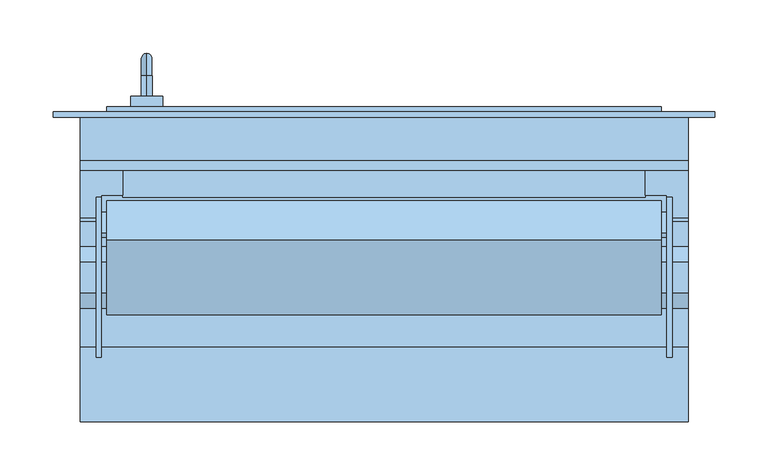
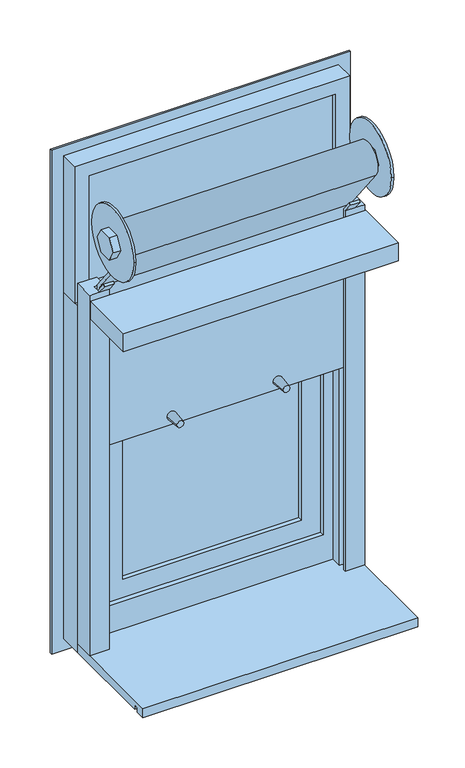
"""IFC4 building model written with IfcOpenShell, lengths in millimetres: window geometry, Ventana monoblock practicable, 1 hoja sin cajon para poner emparchado : CA-03 BAÑO."""

import ifcopenshell
import ifcopenshell.guid

model = None  # the IFC model being written
_history = None  # IfcOwnerHistory: only IFC2X3 demands one
_inside = {}  # id of a spatial element -> (the spatial element, [elements in it])
_under = {}  # id of a project, library or spatial element -> (it, [spatial elements below it])
_declared = {}  # id of a project -> (the project, [libraries it declares])
_typed = {}  # id of a type object -> (the type object, [elements of that type])
_made_of = {}  # id of a material, layer set ... -> (it, [elements and type objects made of it])


def new_model(schema):
    """Start an empty IFC model of exactly this schema.

    Asked for "IFC4X3", IfcOpenShell would pick the latest addendum, in which some entities
    have other attributes; the version numbers below select the first issue.
    IFC2X3 requires an IfcOwnerHistory on every rooted entity: one is made here for all.
    """
    global model, _history
    if schema == "IFC4X3":
        model = ifcopenshell.file(schema_version=(4, 3, 0, 0))
    else:
        model = ifcopenshell.file(schema=schema)
    _inside.clear()
    _under.clear()
    _declared.clear()
    _typed.clear()
    _made_of.clear()
    _history = None
    if model.schema == "IFC2X3":
        org = make("IfcOrganization", Name="unknown")
        user = make(
            "IfcPersonAndOrganization",
            ThePerson=make("IfcPerson", FamilyName="unknown"),
            TheOrganization=org,
        )
        app = make(
            "IfcApplication",
            ApplicationDeveloper=org,
            Version="unknown",
            ApplicationFullName="unknown",
            ApplicationIdentifier="unknown",
        )
        _history = make(
            "IfcOwnerHistory",
            OwningUser=user,
            OwningApplication=app,
            ChangeAction="ADDED",
            CreationDate=0,
        )
    return model


def make(cls, **values):
    """One entity of the class cls with the attributes given. An attribute that is None is left unset."""
    return model.create_entity(
        cls, **{name: value for name, value in values.items() if value is not None}
    )


def rooted(cls, **values):
    """An entity with a GlobalId (a new one), such as an element, a storey or a relation."""
    return make(cls, GlobalId=ifcopenshell.guid.new(), OwnerHistory=_history, **values)


def si_unit(unit_type, name, prefix=None):
    """IfcSIUnit, for example si_unit("LENGTHUNIT", "METRE", prefix="MILLI")."""
    return make("IfcSIUnit", UnitType=unit_type, Prefix=prefix, Name=name)


def assignment(units):
    """IfcUnitAssignment: the units of a project."""
    return None if units is None else make("IfcUnitAssignment", Units=units)


def point(xyz):
    """IfcCartesianPoint."""
    return None if xyz is None else make("IfcCartesianPoint", Coordinates=xyz)


def direction(xyz):
    """IfcDirection."""
    return None if xyz is None else make("IfcDirection", DirectionRatios=xyz)


def frame(location, z_axis=None, x_axis=None):
    """IfcAxis2Placement3D, a coordinate frame: its origin and axes. An axis left out is left unset."""
    return make(
        "IfcAxis2Placement3D",
        Location=point(location),
        Axis=direction(z_axis),
        RefDirection=direction(x_axis),
    )


def frame_2d(location, x_axis=None):
    """IfcAxis2Placement2D, a coordinate frame in the plane: its origin and x axis."""
    return make(
        "IfcAxis2Placement2D", Location=point(location), RefDirection=direction(x_axis)
    )


def origin():
    """The frame at (0, 0, 0) with its axes left unset."""
    return frame((0.0, 0.0, 0.0))


def place(relative_to, where):
    """IfcLocalPlacement: puts the frame where relative to a parent placement (None: the world)."""
    return make(
        "IfcLocalPlacement", PlacementRelTo=relative_to, RelativePlacement=where
    )


def context(
    kind, dimensions, precision=None, world=None, true_north=None, identifier=None
):
    """IfcGeometricRepresentationContext, for example the 3D "Model" context."""
    return make(
        "IfcGeometricRepresentationContext",
        ContextIdentifier=identifier,
        ContextType=kind,
        CoordinateSpaceDimension=dimensions,
        Precision=precision,
        WorldCoordinateSystem=world,
        TrueNorth=true_north,
    )


def project(units=None, contexts=None):
    """IfcProject with its units and contexts."""
    return rooted(
        "IfcProject",
        Name="project",
        RepresentationContexts=contexts,
        UnitsInContext=assignment(units),
    )


def spatial(cls, under=None, at=None, **own):
    """A site, building, storey or space (cls), placed at a placement, below another one or the project."""
    s = rooted(cls, ObjectPlacement=at, **own)
    if under is not None:
        _under.setdefault(under.id(), (under, []))[1].append(s)
    return s


def polyline(points):
    """IfcPolyline through the points."""
    return make("IfcPolyline", Points=[point(p) for p in points])


def circle_curve(where, radius):
    """IfcCircle in the frame where."""
    return make("IfcCircle", Position=where, Radius=radius)


def ellipse_curve(where, semi_axis1, semi_axis2):
    """IfcEllipse in the frame where."""
    return make(
        "IfcEllipse", Position=where, SemiAxis1=semi_axis1, SemiAxis2=semi_axis2
    )


def trimmed(basis, trim1, trim2, sense, master):
    """IfcTrimmedCurve: the piece of a basis curve between two trims."""
    return make(
        "IfcTrimmedCurve",
        BasisCurve=basis,
        Trim1=trim1,
        Trim2=trim2,
        SenseAgreement=sense,
        MasterRepresentation=master,
    )


def segment(curve, same_sense, transition):
    """IfcCompositeCurveSegment."""
    return make(
        "IfcCompositeCurveSegment",
        Transition=transition,
        SameSense=same_sense,
        ParentCurve=curve,
    )


def composite_curve(segments, self_intersect=None):
    """IfcCompositeCurve: segments joined end to end."""
    return make("IfcCompositeCurve", Segments=segments, SelfIntersect=self_intersect)


def outline(outer, holes=None, kind="AREA"):
    """IfcArbitraryClosedProfileDef: a profile drawn as a closed curve; with holes, ...WithVoids."""
    if holes is None:
        return make("IfcArbitraryClosedProfileDef", ProfileType=kind, OuterCurve=outer)
    return make(
        "IfcArbitraryProfileDefWithVoids",
        ProfileType=kind,
        OuterCurve=outer,
        InnerCurves=holes,
    )


def extrude(swept, where, along, depth):
    """IfcExtrudedAreaSolid: the profile swept, set in the frame where, extruded along a direction by depth."""
    return make(
        "IfcExtrudedAreaSolid",
        SweptArea=swept,
        Position=where,
        ExtrudedDirection=direction(along),
        Depth=depth,
    )


def faces_of(points, faces, orient=None, outer=None):
    """IfcFace entities. A face is a list of loops; a loop is a list of indices into points, from 0.

    orient and outer hold one flag for each loop. By default every Orientation is true, the
    first loop of a face is its IfcFaceOuterBound and the others are IfcFaceBound.
    """
    made = []
    for i, loops in enumerate(faces):
        bounds = []
        for j, loop in enumerate(loops):
            is_outer = j == 0 if outer is None else outer[i][j]
            bounds.append(
                make(
                    "IfcFaceOuterBound" if is_outer else "IfcFaceBound",
                    Bound=make("IfcPolyLoop", Polygon=[points[k] for k in loop]),
                    Orientation=True if orient is None else orient[i][j],
                )
            )
        made.append(make("IfcFace", Bounds=bounds))
    return made


def faceted_brep(points, faces, orient=None, outer=None, voids=None):
    """IfcFacetedBrep: a solid bounded by flat faces; with voids (closed shells), ...WithVoids."""
    shared = [point(p) for p in points]
    hull = make("IfcClosedShell", CfsFaces=faces_of(shared, faces, orient, outer))
    if voids is None:
        return make("IfcFacetedBrep", Outer=hull)
    return make(
        "IfcFacetedBrepWithVoids",
        Outer=hull,
        Voids=[
            make(cls, CfsFaces=faces_of(shared, fs, o, b)) for cls, fs, o, b in voids
        ],
    )


def shape(context_of_items, identifier, shape_type, items):
    """IfcShapeRepresentation: the items that make up one representation, for example the "Body"."""
    return make(
        "IfcShapeRepresentation",
        ContextOfItems=context_of_items,
        RepresentationIdentifier=identifier,
        RepresentationType=shape_type,
        Items=items,
    )


def source(mapping_origin, context_of_items, identifier, shape_type, items):
    """IfcRepresentationMap: a shape defined once, which mapped items show again and again."""
    return make(
        "IfcRepresentationMap",
        MappingOrigin=mapping_origin,
        MappedRepresentation=shape(context_of_items, identifier, shape_type, items),
    )


def transform(
    local_origin,
    x_axis=None,
    y_axis=None,
    z_axis=None,
    scale=None,
    scale2=None,
    scale3=None,
    uniform=True,
):
    """IfcCartesianTransformationOperator3D, or its non-uniform kind. x_axis, y_axis, z_axis: its Axis1, 2, 3."""
    if uniform:
        return make(
            "IfcCartesianTransformationOperator3D",
            Axis1=direction(x_axis),
            Axis2=direction(y_axis),
            LocalOrigin=point(local_origin),
            Scale=scale,
            Axis3=direction(z_axis),
        )
    return make(
        "IfcCartesianTransformationOperator3DnonUniform",
        Axis1=direction(x_axis),
        Axis2=direction(y_axis),
        LocalOrigin=point(local_origin),
        Scale=scale,
        Axis3=direction(z_axis),
        Scale2=scale2,
        Scale3=scale3,
    )


def mapped(mapping_source, mapping_target):
    """IfcMappedItem: shows the shape of a source again, moved by a transform."""
    return make(
        "IfcMappedItem", MappingSource=mapping_source, MappingTarget=mapping_target
    )


def made_of(thing, what):
    """Note that an element or type object is made of a material, layer set ...; save() writes the relation."""
    if what is not None:
        _made_of.setdefault(what.id(), (what, []))[1].append(thing)
    return thing


def element(
    cls,
    number,
    at=None,
    inside=None,
    cuts=None,
    type_object=None,
    material=None,
    context=None,
    identifier="Body",
    shape_type=None,
    held_by="IfcProductDefinitionShape",
    body=None,
    shapes=None,
    **own,
):
    """One element of the class cls, such as IfcWall. Its Tag is "e" and its number.

    at: its placement. inside: the storey or other place that contains it. cuts: it is an
    opening in that element (IfcRelVoidsElement). A single representation is given by context,
    identifier, shape_type and body (its items); several are given by shapes. held_by: the class
    of the entity that holds the representations. save() writes the other relations.
    """
    e = rooted(cls, Tag="e%d" % number, ObjectPlacement=at, **own)
    if body is not None:
        shapes = [shape(context, identifier, shape_type, body)]
    if shapes is not None:
        e.Representation = make(held_by, Representations=shapes)
    if inside is not None:
        _inside.setdefault(inside.id(), (inside, []))[1].append(e)
    if cuts is not None:
        rooted(
            "IfcRelVoidsElement", RelatingBuildingElement=cuts, RelatedOpeningElement=e
        )
    if type_object is not None:
        _typed.setdefault(type_object.id(), (type_object, []))[1].append(e)
    return made_of(e, material)


def aggregate(whole, parts):
    """IfcRelAggregates: a whole, such as a stair, and the parts it consists of."""
    return rooted("IfcRelAggregates", RelatingObject=whole, RelatedObjects=parts)


def save(model, path):
    """Write the relations noted so far, then the file.

    IfcRelAggregates (storeys below a building ...), IfcRelContainedInSpatialStructure (elements
    in a storey), IfcRelDefinesByType, IfcRelAssociatesMaterial and IfcRelDeclares: one each for
    every whole, place, type object, material and project.
    """
    for whole, parts in _under.values():
        aggregate(whole, parts)
    for where, things in _inside.values():
        rooted(
            "IfcRelContainedInSpatialStructure",
            RelatedElements=things,
            RelatingStructure=where,
        )
    for kind, things in _typed.values():
        rooted("IfcRelDefinesByType", RelatedObjects=things, RelatingType=kind)
    for what, things in _made_of.values():
        rooted("IfcRelAssociatesMaterial", RelatedObjects=things, RelatingMaterial=what)
    for by, libraries in _declared.values():
        rooted("IfcRelDeclares", RelatingContext=by, RelatedDefinitions=libraries)
    model.write(path)


def plane_surface(at):
    """IfcPlane: the flat surface through the origin of the frame at, square to its z axis."""
    return make("IfcPlane", Position=at)


def cylinder_surface(at, radius):
    """IfcCylindricalSurface: all points at the distance radius from the z axis of the frame at."""
    return make("IfcCylindricalSurface", Position=at, Radius=radius)


def revolved_surface(curve, axis_point, axis_direction):
    """IfcSurfaceOfRevolution: the curve turned about the line through axis_point along axis_direction."""
    return make(
        "IfcSurfaceOfRevolution",
        SweptCurve=make("IfcArbitraryOpenProfileDef", ProfileType="CURVE", Curve=curve),
        AxisPosition=make("IfcAxis1Placement", Location=point(axis_point), Axis=direction(axis_direction)),
    )


def advanced_brep(points, edges, surfaces, faces):
    """IfcAdvancedBrep: a solid bounded by faces that lie on surfaces and meet in shared edges.

    An edge is (start, end): straight between two places in points (the first is 0);
    or (start, end, curve); or (start, end, curve, False) where it runs against its curve.
    A face is (place in surfaces, loops), or (place, loops, False) where it looks against
    its surface's normal. A loop lists edges by number (the first is 1), with a minus sign
    where the edge is run from its end to its start. The first loop is the outer one.
    """
    corners = [point(p) for p in points]
    vertices = [make("IfcVertexPoint", VertexGeometry=c) for c in corners]
    made = []
    for start, end, *more in edges:
        made.append(
            make(
                "IfcEdgeCurve",
                EdgeStart=vertices[start],
                EdgeEnd=vertices[end],
                EdgeGeometry=more[0] if more else make("IfcPolyline", Points=[corners[start], corners[end]]),
                SameSense=more[1] if len(more) > 1 else True,
            )
        )
    hull = []
    for where, loops, *sense in faces:
        bounds = []
        for j, loop in enumerate(loops):
            ring = [make("IfcOrientedEdge", EdgeElement=made[abs(k) - 1], Orientation=k > 0) for k in loop]
            bounds.append(
                make(
                    "IfcFaceOuterBound" if j == 0 else "IfcFaceBound",
                    Bound=make("IfcEdgeLoop", EdgeList=ring),
                    Orientation=True,
                )
            )
        hull.append(make("IfcAdvancedFace", Bounds=bounds, FaceSurface=surfaces[where], SameSense=sense[0] if sense else True))
    return make("IfcAdvancedBrep", Outer=make("IfcClosedShell", CfsFaces=hull))


def window_ec7ea8cb(model_context):
    return source(origin(), model_context, "Body", "SolidModel", [
        extrude(outline(polyline([(270.0, 97.5), (-270.0, 97.5), (-270.0, 112.5), (270.0, 112.5), (270.0, 97.5)])), frame((0.0, 0.0, 1675.0), z_axis=(0.0, 0.0, 1.0), x_axis=(1.0, 0.0, 0.0)), (0.0, 0.0, 1.0), 270.0),
        faceted_brep([(-285.0, 87.5, 1960.0), (285.0, 87.5, 1960.0), (285.0, 127.5, 1960.0), (-285.0, 127.5, 1960.0), (-255.0, 97.5, 1930.0), (255.0, 97.5, 1930.0), (255.0, 87.5, 1930.0), (-255.0, 87.5, 1930.0), (-270.0, 127.5, 1945.0), (270.0, 127.5, 1945.0), (270.0, 97.5, 1945.0), (-270.0, 97.5, 1945.0), (285.0, 87.5, 1660.0), (285.0, 127.5, 1660.0), (255.0, 97.5, 1690.0), (255.0, 87.5, 1690.0), (270.0, 127.5, 1675.0), (270.0, 97.5, 1675.0), (-285.0, 87.5, 1660.0), (-285.0, 127.5, 1660.0), (-255.0, 97.5, 1690.0), (-255.0, 87.5, 1690.0), (-270.0, 127.5, 1675.0), (-270.0, 97.5, 1675.0)], [[[0, 1, 2, 3]], [[4, 5, 6, 7]], [[8, 9, 10, 11]], [[1, 12, 13, 2]], [[5, 14, 15, 6]], [[9, 16, 17, 10]], [[12, 18, 19, 13]], [[14, 20, 21, 15]], [[16, 22, 23, 17]], [[18, 0, 3, 19]], [[1, 0, 18, 12], [7, 6, 15, 21]], [[20, 4, 7, 21]], [[11, 10, 17, 23], [5, 4, 20, 14]], [[22, 8, 11, 23]], [[3, 2, 13, 19], [9, 8, 22, 16]]]),
        advanced_brep(
        [(-285.0, 6.3675135, 1855.0), (-285.0, -8.0662433, 1830.0), (-285.0, -36.9337567, 1830.0), (-285.0, -51.3675135, 1855.0), (-285.0, -36.9337567, 1880.0), (-285.0, -8.0662433, 1880.0), (285.0, 6.3675135, 1855.0), (285.0, -8.0662433, 1880.0), (285.0, -36.9337567, 1880.0), (285.0, -51.3675135, 1855.0), (285.0, -36.9337567, 1830.0), (285.0, -8.0662433, 1830.0), (270.0, 6.3675135, 1855.0), (270.0, -8.0662433, 1880.0), (265.0, 6.3675135, 1855.0), (-265.0, 6.3675135, 1855.0), (-265.0, -8.0662433, 1880.0), (265.0, -8.0662433, 1880.0), (-270.0, -8.0662433, 1880.0), (-270.0, 6.3675135, 1855.0), (270.0, -36.9337567, 1880.0), (-265.0, -36.9337567, 1880.0), (265.0, -36.9337567, 1880.0), (-270.0, -36.9337567, 1880.0), (270.0, -51.3675135, 1855.0), (-265.0, -51.3675135, 1855.0), (265.0, -51.3675135, 1855.0), (-270.0, -51.3675135, 1855.0), (270.0, -36.9337567, 1830.0), (-265.0, -36.9337567, 1830.0), (265.0, -36.9337567, 1830.0), (-270.0, -36.9337567, 1830.0), (270.0, -8.0662433, 1830.0), (-265.0, -8.0662433, 1830.0), (265.0, -8.0662433, 1830.0), (-270.0, -8.0662433, 1830.0), (265.0, 52.5, 1855.0), (265.0, -97.5, 1855.0), (270.0, 52.5, 1855.0), (270.0, -97.5, 1855.0), (-270.0, 52.5, 1855.0), (-270.0, -97.5, 1855.0), (-265.0, 52.5, 1855.0), (-265.0, -97.5, 1855.0)],
        [
            (0, 1),
            (1, 2),
            (2, 3),
            (3, 4),
            (4, 5),
            (5, 0),
            (6, 7),
            (7, 8),
            (8, 9),
            (9, 10),
            (10, 11),
            (11, 6),
            (6, 12),
            (12, 13),
            (13, 7),
            (14, 15),
            (15, 16),
            (16, 17),
            (17, 14),
            (5, 18),
            (18, 19),
            (19, 0),
            (13, 20),
            (20, 8),
            (16, 21),
            (21, 22),
            (22, 17),
            (4, 23),
            (23, 18),
            (20, 24),
            (24, 9),
            (21, 25),
            (25, 26),
            (26, 22),
            (3, 27),
            (27, 23),
            (24, 28),
            (28, 10),
            (25, 29),
            (29, 30),
            (30, 26),
            (2, 31),
            (31, 27),
            (28, 32),
            (32, 11),
            (29, 33),
            (33, 34),
            (34, 30),
            (1, 35),
            (35, 31),
            (19, 35),
            (32, 12),
            (33, 15),
            (14, 34),
            (36, 37, circle_curve(frame((265.0, -22.5, 1855.0), z_axis=(-1.0, 0.0, 0.0), x_axis=(0.0, -1.0, 0.0)), 75.0)),
            (37, 36, circle_curve(frame((265.0, -22.5, 1855.0), z_axis=(-1.0, 0.0, 0.0), x_axis=(0.0, -1.0, 0.0)), 75.0)),
            (38, 39, circle_curve(frame((270.0, -22.5, 1855.0), z_axis=(1.0, 0.0, 0.0), x_axis=(0.0, -1.0, 0.0)), 75.0)),
            (39, 38, circle_curve(frame((270.0, -22.5, 1855.0), z_axis=(1.0, 0.0, 0.0), x_axis=(0.0, -1.0, 0.0)), 75.0)),
            (36, 38),
            (39, 37),
            (40, 41, circle_curve(frame((-270.0, -22.5, 1855.0), z_axis=(-1.0, 0.0, 0.0), x_axis=(0.0, -1.0, 0.0)), 75.0)),
            (41, 40, circle_curve(frame((-270.0, -22.5, 1855.0), z_axis=(-1.0, 0.0, 0.0), x_axis=(0.0, -1.0, 0.0)), 75.0)),
            (42, 43, circle_curve(frame((-265.0, -22.5, 1855.0), z_axis=(1.0, 0.0, 0.0), x_axis=(0.0, -1.0, 0.0)), 75.0)),
            (43, 42, circle_curve(frame((-265.0, -22.5, 1855.0), z_axis=(1.0, 0.0, 0.0), x_axis=(0.0, -1.0, 0.0)), 75.0)),
            (40, 42),
            (43, 41),
        ],
        [
            plane_surface(frame((-285.0, 6.3675135, 1855.0), z_axis=(-1.0, 0.0, 0.0), x_axis=(0.0, -0.4999999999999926, 0.8660254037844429))),
            plane_surface(frame((285.0, 6.3675135, 1855.0), z_axis=(1.0, 0.0, 0.0), x_axis=(0.0, 0.4999999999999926, -0.8660254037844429))),
            plane_surface(frame((-285.0, 6.3675135, 1855.0), z_axis=(0.0, 0.8660254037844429, 0.4999999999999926), x_axis=(1.0, 0.0, 0.0))),
            plane_surface(frame((-285.0, -8.0662433, 1880.0), z_axis=(0.0, 0.0, 1.0), x_axis=(1.0, 0.0, 0.0))),
            plane_surface(frame((-285.0, -36.9337567, 1880.0), z_axis=(0.0, -0.8660254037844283, 0.5000000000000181), x_axis=(1.0, 0.0, 0.0))),
            plane_surface(frame((-285.0, -51.3675135, 1855.0), z_axis=(0.0, -0.8660254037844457, -0.49999999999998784), x_axis=(1.0, 0.0, 0.0))),
            plane_surface(frame((-285.0, -36.9337567, 1830.0), z_axis=(0.0, 0.0, -1.0), x_axis=(1.0, 0.0, 0.0))),
            plane_surface(frame((-285.0, -8.0662433, 1830.0), z_axis=(0.0, 0.8660254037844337, -0.5000000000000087), x_axis=(1.0, 0.0, 0.0))),
            plane_surface(frame((265.0, -97.5, 1855.0), z_axis=(-1.0, 0.0, 0.0), x_axis=(0.0, 0.0, -1.0))),
            plane_surface(frame((270.0, -97.5, 1855.0), z_axis=(1.0, 0.0, 0.0), x_axis=(0.0, 0.0, 1.0))),
            cylinder_surface(frame((265.0, -22.5, 1855.0), z_axis=(1.0, 0.0, 0.0), x_axis=(0.0, -1.0, 0.0)), 75.0),
            plane_surface(frame((-270.0, -97.5, 1855.0), z_axis=(-1.0, 0.0, 0.0), x_axis=(0.0, 0.0, -1.0))),
            plane_surface(frame((-265.0, -97.5, 1855.0), z_axis=(1.0, 0.0, 0.0), x_axis=(0.0, 0.0, 1.0))),
            cylinder_surface(frame((-270.0, -22.5, 1855.0), z_axis=(1.0, 0.0, 0.0), x_axis=(0.0, -1.0, 0.0)), 75.0),
        ],
        [
            (0, [[1, 2, 3, 4, 5, 6]]),
            (1, [[7, 8, 9, 10, 11, 12]]),
            (2, [[13, 14, 15, -7]]),
            (2, [[16, 17, 18, 19]]),
            (2, [[20, 21, 22, -6]]),
            (3, [[-15, 23, 24, -8]]),
            (3, [[-18, 25, 26, 27]]),
            (3, [[28, 29, -20, -5]]),
            (4, [[-24, 30, 31, -9]]),
            (4, [[-26, 32, 33, 34]]),
            (4, [[35, 36, -28, -4]]),
            (5, [[-31, 37, 38, -10]]),
            (5, [[-33, 39, 40, 41]]),
            (5, [[42, 43, -35, -3]]),
            (6, [[-38, 44, 45, -11]]),
            (6, [[-40, 46, 47, 48]]),
            (6, [[49, 50, -42, -2]]),
            (7, [[-22, 51, -49, -1]]),
            (7, [[-45, 52, -13, -12]]),
            (7, [[-47, 53, -16, 54]]),
            (8, [[55, 56], [-27, -34, -41, -48, -54, -19]]),
            (9, [[57, 58], [-52, -44, -37, -30, -23, -14]]),
            (10, [[59, -58, 60, -55]]),
            (10, [[-60, -57, -59, -56]]),
            (11, [[61, 62], [-29, -36, -43, -50, -51, -21]]),
            (12, [[63, 64], [-53, -46, -39, -32, -25, -17]]),
            (13, [[65, -64, 66, -61]]),
            (13, [[-66, -63, -65, -62]]),
        ],
    ),
        extrude(outline(composite_curve([segment(polyline([(-45.3709706, 1837.1697251), (49.5, 1715.4783214), (49.5, 1360.0), (43.5, 1360.0), (43.5, 1713.4158643), (-50.1028956, 1833.4807027)]), True, "CONTINUOUS"), segment(trimmed(circle_curve(frame_2d((-22.5, 1855.0)), 35.0), [point((-50.1028956, 1833.4807027))], [point((-22.5, 1820.0))], False, "CARTESIAN"), True, "CONTINUOUS"), segment(polyline([(-22.5, 1820.0), (-22.5, 1826.0)]), True, "CONTINUOUS"), segment(trimmed(circle_curve(frame_2d((-22.5, 1855.0)), 29.0), [point((-22.5, 1826.0))], [point((-45.3709706, 1837.1697251))], True, "CARTESIAN"), True, "CONTINUOUS")], self_intersect=False)), frame((-260.0, 0.0, 0.0), z_axis=(1.0, 0.0, 0.0), x_axis=(0.0, 1.0, 0.0)), (0.0, 0.0, 1.0), 520.0),
        extrude(outline(polyline([(-285.0, 29.5), (285.0, 29.5), (285.0, -87.5), (-285.0, -87.5), (-285.0, 29.5)])), frame((0.0, 0.0, 1660.0), z_axis=(0.0, 0.0, 1.0), x_axis=(1.0, 0.0, 0.0)), (0.0, 0.0, 1.0), 40.0),
        extrude(outline(polyline([(245.0, 52.5), (-245.0, 52.5), (-245.0, 77.5), (245.0, 77.5), (245.0, 52.5)])), frame((0.0, 0.0, 1650.0), z_axis=(0.0, 0.0, 1.0), x_axis=(1.0, 0.0, 0.0)), (0.0, 0.0, 1.0), 10.0),
        faceted_brep([(-265.0, 54.5, 920.0), (-265.0, 38.5, 920.0), (-245.0, 38.5, 920.0), (-245.0, 33.5, 920.0), (-285.0, 33.5, 920.0), (-285.0, 77.5, 920.0), (-245.0, 77.5, 920.0), (-245.0, 54.5, 920.0), (-265.0, 54.5, 1710.0), (-245.0, 54.5, 1710.0), (-245.0, 77.5, 1710.0), (-285.0, 77.5, 1710.0), (-285.0, 33.5, 1710.0), (-245.0, 33.5, 1710.0), (-265.0, 33.5, 1710.0), (-245.0, 38.5, 1711.7190332), (-245.0, 18.9951086, 1736.7321553), (-245.0, 15.0521886, 1733.65752), (-265.0, 38.5, 1710.0), (-265.0, 38.5, 1711.7190332), (-265.0, 15.0521886, 1733.65752), (-265.0, 18.9951086, 1736.7321553)], [[[0, 1, 2, 3, 4, 5, 6, 7]], [[8, 0, 7, 9]], [[9, 7, 6, 10]], [[10, 6, 5, 11]], [[11, 5, 4, 12]], [[12, 4, 3, 13, 14]], [[2, 15, 16, 17, 13, 3]], [[1, 18, 19, 15, 2]], [[8, 18, 1, 0]], [[14, 18, 8, 9, 10, 11, 12]], [[19, 18, 14, 20, 21]], [[16, 21, 20, 17]], [[15, 19, 21, 16]], [[17, 20, 14, 13]]]),
        faceted_brep([(285.0, 33.5, 920.0), (245.0, 33.5, 920.0), (245.0, 38.5, 920.0), (265.0, 38.5, 920.0), (265.0, 54.5, 920.0), (245.0, 54.5, 920.0), (245.0, 77.5, 920.0), (285.0, 77.5, 920.0), (285.0, 33.5, 1710.0), (285.0, 77.5, 1710.0), (245.0, 77.5, 1710.0), (245.0, 54.5, 1710.0), (265.0, 54.5, 1710.0), (265.0, 38.5, 1710.0), (245.0, 38.5, 1711.7190332), (265.0, 38.5, 1711.7190332), (245.0, 33.5, 1710.0), (245.0, 15.0521886, 1733.65752), (245.0, 18.9951086, 1736.7321553), (265.0, 33.5, 1710.0), (265.0, 18.9951086, 1736.7321553), (265.0, 15.0521886, 1733.65752)], [[[0, 1, 2, 3, 4, 5, 6, 7]], [[8, 0, 7, 9]], [[9, 7, 6, 10]], [[10, 6, 5, 11]], [[11, 5, 4, 12]], [[4, 3, 13, 12]], [[2, 14, 15, 13, 3]], [[1, 16, 17, 18, 14, 2]], [[19, 16, 1, 0, 8]], [[12, 13, 19, 8, 9, 10, 11]], [[19, 13, 15, 20, 21]], [[20, 18, 17, 21]], [[15, 14, 18, 20]], [[21, 17, 16, 19]]]),
        advanced_brep(
        [(-103.0, 11.5, 1380.0), (-117.0, 11.5, 1380.0), (-100.5, 43.5, 1380.0), (-119.5, 43.5, 1380.0)],
        [
            (0, 1, circle_curve(frame((-110.0, 11.5, 1380.0), z_axis=(0.0, -1.0, 0.0), x_axis=(-1.0, 0.0, 0.0)), 7.0)),
            (1, 0, circle_curve(frame((-110.0, 11.5, 1380.0), z_axis=(0.0, -1.0, 0.0), x_axis=(1.0, 0.0, 0.0)), 7.0)),
            (2, 3, circle_curve(frame((-110.0, 43.5, 1380.0), z_axis=(0.0, 1.0, 0.0), x_axis=(1.0, 0.0, 0.0)), 9.5)),
            (3, 2, circle_curve(frame((-110.0, 43.5, 1380.0), z_axis=(0.0, 1.0, 0.0), x_axis=(-1.0, 0.0, 0.0)), 9.5)),
            (2, 0),
            (1, 3),
        ],
        [
            plane_surface(frame((-110.0, 11.5, 1380.0), z_axis=(0.0, -1.0, 0.0), x_axis=(0.0, 0.0, 1.0))),
            plane_surface(frame((-110.0, 43.5, 1380.0), z_axis=(0.0, 1.0, 0.0), x_axis=(0.0, 0.0, 1.0))),
            revolved_surface(polyline([(-103.0, 11.5, 1380.0), (-100.5, 43.5, 1380.0)]), (-110.0, -78.1, 1380.0), (0.0, 1.0, 0.0)),
            revolved_surface(polyline([(-117.0, 11.5, 1380.0), (-119.5, 43.5, 1380.0)]), (-110.0, -78.1, 1380.0), (0.0, 1.0, 0.0)),
        ],
        [
            (0, [[1, 2]]),
            (1, [[3, 4]]),
            (2, [[5, -2, 6, -3]]),
            (3, [[-6, -1, -5, -4]]),
        ],
    ),
        advanced_brep(
        [(103.0, 11.5, 1380.0), (117.0, 11.5, 1380.0), (100.5, 43.5, 1380.0), (119.5, 43.5, 1380.0)],
        [
            (0, 1, circle_curve(frame((110.0, 11.5, 1380.0), z_axis=(0.0, -1.0, 0.0), x_axis=(1.0, 0.0, 0.0)), 7.0)),
            (1, 0, circle_curve(frame((110.0, 11.5, 1380.0), z_axis=(0.0, -1.0, 0.0), x_axis=(-1.0, 0.0, 0.0)), 7.0)),
            (2, 3, circle_curve(frame((110.0, 43.5, 1380.0), z_axis=(0.0, 1.0, 0.0), x_axis=(-1.0, 0.0, 0.0)), 9.5)),
            (3, 2, circle_curve(frame((110.0, 43.5, 1380.0), z_axis=(0.0, 1.0, 0.0), x_axis=(1.0, 0.0, 0.0)), 9.5)),
            (3, 1),
            (0, 2),
        ],
        [
            plane_surface(frame((110.0, 11.5, 1380.0), z_axis=(0.0, -1.0, 0.0), x_axis=(0.0, 0.0, -1.0))),
            plane_surface(frame((110.0, 43.5, 1380.0), z_axis=(0.0, 1.0, 0.0), x_axis=(0.0, 0.0, -1.0))),
            revolved_surface(polyline([(117.0, 11.5, 1380.0), (119.5, 43.5, 1380.0)]), (110.0, -78.1, 1380.0), (0.0, 1.0, 0.0)),
            revolved_surface(polyline([(103.0, 11.5, 1380.0), (100.5, 43.5, 1380.0)]), (110.0, -78.1, 1380.0), (0.0, 1.0, 0.0)),
        ],
        [
            (0, [[1, 2]]),
            (1, [[3, 4]]),
            (2, [[5, -1, 6, -4]]),
            (3, [[-6, -2, -5, -3]]),
        ],
    ),
        extrude(outline(polyline([(-157.5, 920.0), (77.5, 920.0), (77.5, 900.0), (-127.5, 900.0), (-127.5, 910.0), (-137.5, 910.0), (-137.5, 900.0), (-157.5, 900.0), (-157.5, 920.0)])), frame((-285.0, 0.0, 0.0), z_axis=(1.0, 0.0, 0.0), x_axis=(0.0, 1.0, 0.0)), (0.0, 0.0, 1.0), 570.0),
        advanced_brep(
        [(-222.5, 147.5, 1295.0), (-222.5, 147.5, 1285.0), (-222.5, 166.5, 1285.0), (-222.5, 166.5, 1295.0), (-222.5, 177.5, 1274.0), (-222.5, 187.5, 1274.0), (-222.5, 187.5, 1195.0), (-222.5, 177.5, 1195.0), (-207.5, 147.5, 1320.0), (-207.5, 147.5, 1260.0), (-237.5, 147.5, 1260.0), (-237.5, 147.5, 1320.0), (-207.5, 137.5, 1320.0), (-237.5, 137.5, 1320.0), (-237.5, 137.5, 1260.0), (-207.5, 137.5, 1260.0)],
        [
            (0, 1, circle_curve(frame((-222.5, 147.5, 1290.0), z_axis=(0.0, 1.0, 0.0), x_axis=(0.0, 0.0, -1.0)), 5.0)),
            (1, 2),
            (2, 3, circle_curve(frame((-222.5, 166.5, 1290.0), z_axis=(0.0, -1.0, 0.0), x_axis=(0.0, 0.0, -1.0)), 5.0)),
            (3, 0),
            (3, 2, circle_curve(frame((-222.5, 166.5, 1290.0), z_axis=(0.0, -1.0, 0.0), x_axis=(0.0, 0.0, -1.0)), 5.0)),
            (1, 0, circle_curve(frame((-222.5, 147.5, 1290.0), z_axis=(0.0, 1.0, 0.0), x_axis=(0.0, 0.0, -1.0)), 5.0)),
            (2, 4, circle_curve(frame((-222.5, 166.5, 1274.0), z_axis=(-1.0, 0.0, 0.0), x_axis=(0.0, 0.0, 1.0)), 11.0)),
            (4, 5, circle_curve(frame((-222.5, 182.5, 1274.0), z_axis=(0.0, 0.0, 1.0), x_axis=(0.0, -1.0, 0.0)), 5.0)),
            (5, 3, circle_curve(frame((-222.5, 166.5, 1274.0), z_axis=(1.0, 0.0, 0.0), x_axis=(0.0, 0.0, 1.0)), 21.0)),
            (5, 4, circle_curve(frame((-222.5, 182.5, 1274.0), z_axis=(0.0, 0.0, 1.0), x_axis=(0.0, -1.0, 0.0)), 5.0)),
            (6, 7, circle_curve(frame((-222.5, 182.5, 1195.0), z_axis=(0.0, 0.0, -1.0), x_axis=(0.0, -1.0, 0.0)), 5.0)),
            (7, 6, circle_curve(frame((-222.5, 182.5, 1195.0), z_axis=(0.0, 0.0, -1.0), x_axis=(0.0, -1.0, 0.0)), 5.0)),
            (4, 7),
            (6, 5),
            (8, 9),
            (9, 10),
            (10, 11),
            (11, 8),
            (12, 13),
            (13, 14),
            (14, 15),
            (15, 12),
            (11, 13),
            (12, 8),
            (10, 14),
            (9, 15),
        ],
        [
            cylinder_surface(frame((-222.5, 147.5, 1290.0), z_axis=(0.0, -1.0, 0.0), x_axis=(0.0, 0.0, -1.0)), 5.0),
            revolved_surface(trimmed(ellipse_curve(frame((-222.5, 166.5, 1290.0), z_axis=(0.0, 1.0, 0.0), x_axis=(0.0, 0.0, -1.0)), 5.0, 5.0), [point((-222.5, 166.5, 1295.0))], [point((-222.5, 166.5, 1285.0))], True, "CARTESIAN"), (-222.5, 166.5, 1274.0), (1.0, 0.0, 0.0)),
            revolved_surface(trimmed(ellipse_curve(frame((-222.5, 166.5, 1290.0), z_axis=(0.0, 1.0, 0.0), x_axis=(0.0, 0.0, -1.0)), 5.0, 5.0), [point((-222.5, 166.5, 1285.0))], [point((-222.5, 166.5, 1295.0))], True, "CARTESIAN"), (-222.5, 166.5, 1274.0), (1.0, 0.0, 0.0)),
            plane_surface(frame((-222.5, 182.5, 1195.0), z_axis=(0.0, 0.0, -1.0), x_axis=(1.0, 0.0, 0.0))),
            cylinder_surface(frame((-222.5, 182.5, 1274.0), z_axis=(0.0, 0.0, 1.0), x_axis=(0.0, -1.0, 0.0)), 5.0),
            plane_surface(frame((-237.5, 147.5, 1320.0), z_axis=(0.0, 1.0, 0.0), x_axis=(-1.0, 0.0, 0.0))),
            plane_surface(frame((-237.5, 137.5, 1320.0), z_axis=(0.0, -1.0, 0.0), x_axis=(1.0, 0.0, 0.0))),
            plane_surface(frame((-207.5, 147.5, 1320.0), z_axis=(0.0, 0.0, 1.0), x_axis=(0.0, -1.0, 0.0))),
            plane_surface(frame((-237.5, 147.5, 1320.0), z_axis=(-1.0, 0.0, 0.0), x_axis=(0.0, -1.0, 0.0))),
            plane_surface(frame((-237.5, 147.5, 1260.0), z_axis=(0.0, 0.0, -1.0), x_axis=(0.0, -1.0, 0.0))),
            plane_surface(frame((-207.5, 147.5, 1260.0), z_axis=(1.0, 0.0, 0.0), x_axis=(0.0, -1.0, 0.0))),
        ],
        [
            (0, [[1, 2, 3, 4]]),
            (0, [[5, -2, 6, -4]]),
            (1, [[7, 8, 9, -3]]),
            (2, [[-9, 10, -7, -5]]),
            (3, [[11, 12]]),
            (4, [[13, -11, 14, -8]]),
            (4, [[-14, -12, -13, -10]]),
            (5, [[15, 16, 17, 18], [-6, -1]]),
            (6, [[19, 20, 21, 22]]),
            (7, [[23, -19, 24, -18]]),
            (8, [[25, -20, -23, -17]]),
            (9, [[26, -21, -25, -16]]),
            (10, [[-24, -22, -26, -15]]),
        ],
    ),
        faceted_brep([(285.0, 77.5, 1660.0), (285.0, 77.5, 900.0), (285.0, 127.5, 900.0), (285.0, 127.5, 1660.0), (-285.0, 127.5, 900.0), (-285.0, 127.5, 1660.0), (250.0, 127.5, 1625.0), (-250.0, 127.5, 1625.0), (-250.0, 127.5, 955.0), (250.0, 127.5, 955.0), (-285.0, 77.5, 900.0), (-285.0, 77.5, 1660.0), (225.0, 77.5, 980.0), (-225.0, 77.5, 980.0), (-225.0, 77.5, 1600.0), (225.0, 77.5, 1600.0), (225.0, 87.5, 1600.0), (225.0, 87.5, 980.0), (-225.0, 87.5, 980.0), (250.0, 87.5, 955.0), (-250.0, 87.5, 955.0), (-250.0, 87.5, 1625.0), (250.0, 87.5, 1625.0), (-225.0, 87.5, 1600.0)], [[[0, 1, 2, 3]], [[2, 4, 5, 3], [6, 7, 8, 9]], [[1, 10, 4, 2]], [[0, 11, 10, 1], [12, 13, 14, 15]], [[16, 17, 12, 15]], [[17, 18, 13, 12]], [[19, 20, 21, 22], [16, 23, 18, 17]], [[6, 9, 19, 22]], [[9, 8, 20, 19]], [[18, 23, 14, 13]], [[8, 7, 21, 20]], [[5, 4, 10, 11]], [[3, 5, 11, 0]], [[15, 14, 23, 16]], [[22, 21, 7, 6]]]),
        extrude(outline(polyline([(200.0, 97.5), (-200.0, 97.5), (-200.0, 111.5), (200.0, 111.5), (200.0, 97.5)])), frame((0.0, 0.0, 1005.0), z_axis=(0.0, 0.0, 1.0), x_axis=(1.0, 0.0, 0.0)), (0.0, 0.0, 1.0), 570.0),
        extrude(outline(polyline([(995.0, -210.0), (995.0, 210.0), (1585.0, 210.0), (1585.0, -210.0), (995.0, -210.0)]), holes=[polyline([(1020.0, -185.0), (1560.0, -185.0), (1560.0, 185.0), (1020.0, 185.0), (1020.0, -185.0)])]), frame((0.0, 111.5, 0.0), z_axis=(0.0, 1.0, 0.0), x_axis=(0.0, 0.0, 1.0)), (0.0, 0.0, 1.0), 26.0),
        faceted_brep([(-235.0, 127.5, 1610.0), (-235.0, 127.5, 970.0), (-235.0, 87.5, 970.0), (-235.0, 87.5, 1610.0), (235.0, 127.5, 970.0), (235.0, 87.5, 970.0), (235.0, 87.5, 1610.0), (-185.0, 87.5, 1020.0), (-185.0, 87.5, 1560.0), (185.0, 87.5, 1560.0), (185.0, 87.5, 1020.0), (235.0, 127.5, 1610.0), (-260.0, 127.5, 945.0), (260.0, 127.5, 945.0), (260.0, 127.5, 1635.0), (-260.0, 127.5, 1635.0), (-260.0, 137.5, 1635.0), (-260.0, 137.5, 945.0), (260.0, 137.5, 945.0), (260.0, 137.5, 1635.0), (-210.0, 137.5, 995.0), (210.0, 137.5, 995.0), (210.0, 137.5, 1585.0), (-210.0, 137.5, 1585.0), (-185.0, 97.5, 1020.0), (-185.0, 97.5, 1560.0), (185.0, 97.5, 1020.0), (-210.0, 97.5, 995.0), (-210.0, 97.5, 1585.0), (210.0, 97.5, 1585.0), (210.0, 97.5, 995.0), (185.0, 97.5, 1560.0)], [[[0, 1, 2, 3]], [[1, 4, 5, 2]], [[2, 5, 6, 3], [7, 8, 9, 10]], [[4, 11, 6, 5]], [[12, 13, 14, 15], [1, 0, 11, 4]], [[16, 17, 12, 15]], [[17, 18, 13, 12]], [[18, 19, 14, 13]], [[17, 16, 19, 18], [20, 21, 22, 23]], [[8, 7, 24, 25]], [[7, 10, 26, 24]], [[27, 28, 29, 30], [24, 26, 31, 25]], [[10, 9, 31, 26]], [[28, 27, 20, 23]], [[27, 30, 21, 20]], [[30, 29, 22, 21]], [[11, 0, 3, 6]], [[19, 16, 15, 14]], [[9, 8, 25, 31]], [[29, 28, 23, 22]]]),
        extrude(outline(polyline([(1980.0, -310.0), (875.0, -310.0), (875.0, 310.0), (1980.0, 310.0), (1980.0, -310.0)]), holes=[polyline([(910.0, 275.0), (910.0, -275.0), (1640.0, -275.0), (1640.0, 275.0), (910.0, 275.0)]), polyline([(1945.0, 275.0), (1675.0, 275.0), (1675.0, -275.0), (1945.0, -275.0), (1945.0, 275.0)])]), frame((0.0, 127.5, 0.0), z_axis=(0.0, 1.0, 0.0), x_axis=(0.0, 0.0, 1.0)), (0.0, 0.0, 1.0), 5.0),
    ])


if __name__ == "__main__":
    model = new_model("IFC4")
    model_context = context("Model", 3, world=origin())
    ifc_project = project(units=[si_unit("LENGTHUNIT", "METRE", prefix="MILLI")], contexts=[model_context])
    site = spatial("IfcSite", under=ifc_project)
    building = spatial("IfcBuilding", under=site)
    placement = place(None, origin())
    window_shape = window_ec7ea8cb(model_context)
    element("IfcWindow", 1, ObjectType="Ventana monoblock practicable, 1 hoja sin cajon para poner emparchado : CA-03 BAÑO", at=placement, inside=building, context=model_context, shape_type="MappedRepresentation", body=[
        mapped(window_shape, transform((0.0, 0.0, 0.0), x_axis=(1.0, 0.0, 0.0), y_axis=(0.0, 1.0, 0.0), z_axis=(0.0, 0.0, 1.0))),
    ])
    save(model, "model.ifc")
